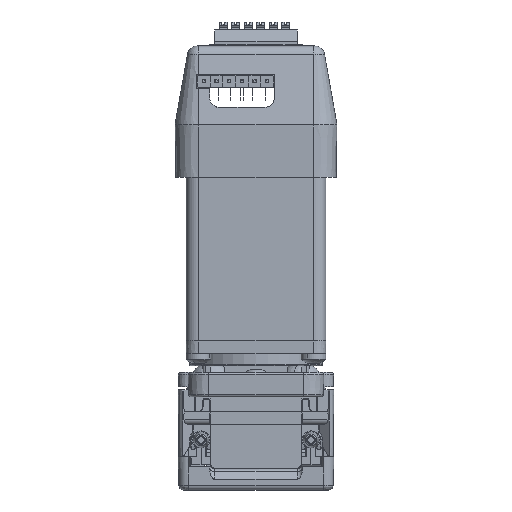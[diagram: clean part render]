
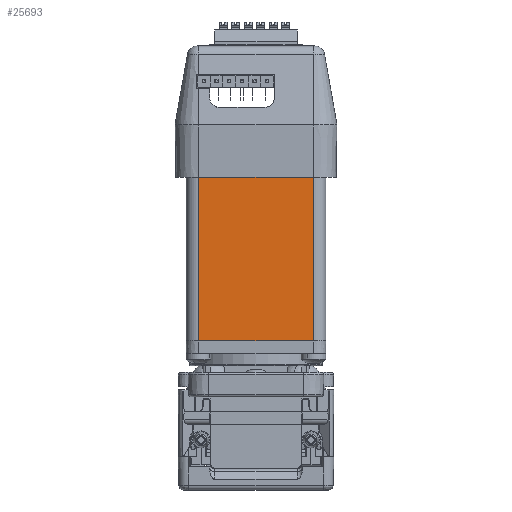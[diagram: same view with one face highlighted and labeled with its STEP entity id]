
A CAD part, front view. The second image highlights one B-rep face of the part: STEP entity #25693.
In plain terms, the highlighted planar face has unit normal (0, -1, 0).
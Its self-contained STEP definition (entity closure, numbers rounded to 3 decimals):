
#292 = VERTEX_POINT ( 'NONE', #35199 ) ;
#708 = LINE ( 'NONE', #37668, #26101 ) ;
#713 = EDGE_CURVE ( 'NONE', #37573, #2317, #8946, .T. ) ;
#1131 = ORIENTED_EDGE ( 'NONE', *, *, #14880, .F. ) ;
#2317 = VERTEX_POINT ( 'NONE', #30593 ) ;
#3899 = DIRECTION ( 'NONE',  ( 0., 0., -1. ) ) ;
#3909 = CARTESIAN_POINT ( 'NONE',  ( 9.2, -14., 43. ) ) ;
#3978 = VERTEX_POINT ( 'NONE', #19496 ) ;
#4083 = VERTEX_POINT ( 'NONE', #6885 ) ;
#4778 = VECTOR ( 'NONE', #6048, 1000. ) ;
#5730 = FACE_OUTER_BOUND ( 'NONE', #20591, .T. ) ;
#6048 = DIRECTION ( 'NONE',  ( -1., 0., 0. ) ) ;
#6506 = DIRECTION ( 'NONE',  ( 0., 1., 0. ) ) ;
#6885 = CARTESIAN_POINT ( 'NONE',  ( -11.5, -14., 43. ) ) ;
#6958 = VECTOR ( 'NONE', #36417, 1000. ) ;
#8359 = DIRECTION ( 'NONE',  ( 1., 0., 0. ) ) ;
#8807 = VECTOR ( 'NONE', #32670, 1000. ) ;
#8946 = LINE ( 'NONE', #33402, #6958 ) ;
#9523 = EDGE_CURVE ( 'NONE', #23491, #26235, #708, .T. ) ;
#9569 = DIRECTION ( 'NONE',  ( 1., 0., 0. ) ) ;
#10135 = CARTESIAN_POINT ( 'NONE',  ( 9.2, -14., 43. ) ) ;
#10137 = CARTESIAN_POINT ( 'NONE',  ( 11.5, -14., 45.3 ) ) ;
#11021 = CARTESIAN_POINT ( 'NONE',  ( -11.5, -14., 45.3 ) ) ;
#11194 = VECTOR ( 'NONE', #34611, 1000. ) ;
#12313 = LINE ( 'NONE', #27136, #4778 ) ;
#14880 = EDGE_CURVE ( 'NONE', #27316, #2317, #31581, .T. ) ;
#15381 = CARTESIAN_POINT ( 'NONE',  ( -11.5, -14., 45.3 ) ) ;
#15722 = ORIENTED_EDGE ( 'NONE', *, *, #27701, .F. ) ;
#17102 = CARTESIAN_POINT ( 'NONE',  ( 11.5, -14., 43. ) ) ;
#17164 = AXIS2_PLACEMENT_3D ( 'NONE', #15381, #6506, #17996 ) ;
#17996 = DIRECTION ( 'NONE',  ( 0., 0., 1. ) ) ;
#18036 = ORIENTED_EDGE ( 'NONE', *, *, #32824, .F. ) ;
#19496 = CARTESIAN_POINT ( 'NONE',  ( -9.2, -14., 44.5 ) ) ;
#19739 = VECTOR ( 'NONE', #8359, 1000. ) ;
#20591 = EDGE_LOOP ( 'NONE', ( #39428, #35100, #18036, #15722, #39677, #32992, #1131, #30977 ) ) ;
#20809 = CARTESIAN_POINT ( 'NONE',  ( -11.5, -14., 43. ) ) ;
#22859 = VECTOR ( 'NONE', #9569, 1000. ) ;
#23491 = VERTEX_POINT ( 'NONE', #10135 ) ;
#24438 = CARTESIAN_POINT ( 'NONE',  ( -11.5, -14., 0.3 ) ) ;
#25008 = LINE ( 'NONE', #37234, #11194 ) ;
#25249 = EDGE_CURVE ( 'NONE', #4083, #37573, #27060, .T. ) ;
#25693 = ADVANCED_FACE ( 'NONE', ( #5730 ), #30601, .F. ) ;
#26101 = VECTOR ( 'NONE', #31629, 1000. ) ;
#26235 = VERTEX_POINT ( 'NONE', #37506 ) ;
#26795 = VECTOR ( 'NONE', #3899, 1000. ) ;
#27027 = LINE ( 'NONE', #20809, #19739 ) ;
#27060 = LINE ( 'NONE', #11021, #8807 ) ;
#27136 = CARTESIAN_POINT ( 'NONE',  ( -9.2, -14., 44.5 ) ) ;
#27316 = VERTEX_POINT ( 'NONE', #17102 ) ;
#27701 = EDGE_CURVE ( 'NONE', #4083, #292, #27027, .T. ) ;
#28215 = LINE ( 'NONE', #3909, #22859 ) ;
#30593 = CARTESIAN_POINT ( 'NONE',  ( 11.5, -14., 0.3 ) ) ;
#30601 = PLANE ( 'NONE',  #17164 ) ;
#30977 = ORIENTED_EDGE ( 'NONE', *, *, #37514, .F. ) ;
#31581 = LINE ( 'NONE', #10137, #26795 ) ;
#31629 = DIRECTION ( 'NONE',  ( 0., 0., 1. ) ) ;
#32670 = DIRECTION ( 'NONE',  ( 0., 0., -1. ) ) ;
#32824 = EDGE_CURVE ( 'NONE', #292, #3978, #25008, .T. ) ;
#32992 = ORIENTED_EDGE ( 'NONE', *, *, #713, .T. ) ;
#33402 = CARTESIAN_POINT ( 'NONE',  ( -11.5, -14., 0.3 ) ) ;
#34504 = EDGE_CURVE ( 'NONE', #26235, #3978, #12313, .T. ) ;
#34611 = DIRECTION ( 'NONE',  ( 0., 0., 1. ) ) ;
#35100 = ORIENTED_EDGE ( 'NONE', *, *, #34504, .T. ) ;
#35199 = CARTESIAN_POINT ( 'NONE',  ( -9.2, -14., 43. ) ) ;
#36417 = DIRECTION ( 'NONE',  ( 1., 0., 0. ) ) ;
#37234 = CARTESIAN_POINT ( 'NONE',  ( -9.2, -14., 43. ) ) ;
#37506 = CARTESIAN_POINT ( 'NONE',  ( 9.2, -14., 44.5 ) ) ;
#37514 = EDGE_CURVE ( 'NONE', #23491, #27316, #28215, .T. ) ;
#37573 = VERTEX_POINT ( 'NONE', #24438 ) ;
#37668 = CARTESIAN_POINT ( 'NONE',  ( 9.2, -14., 43. ) ) ;
#39428 = ORIENTED_EDGE ( 'NONE', *, *, #9523, .T. ) ;
#39677 = ORIENTED_EDGE ( 'NONE', *, *, #25249, .T. ) ;
